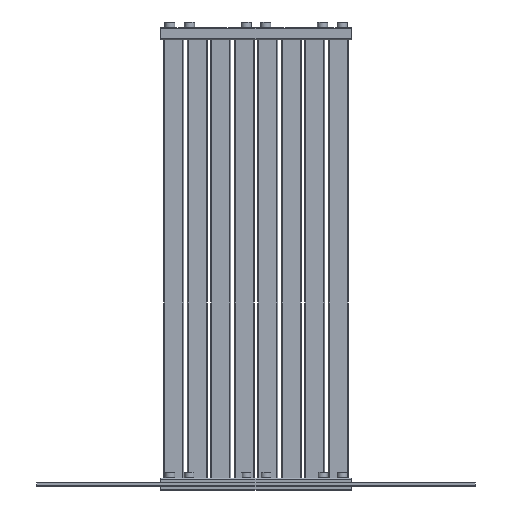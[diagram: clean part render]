
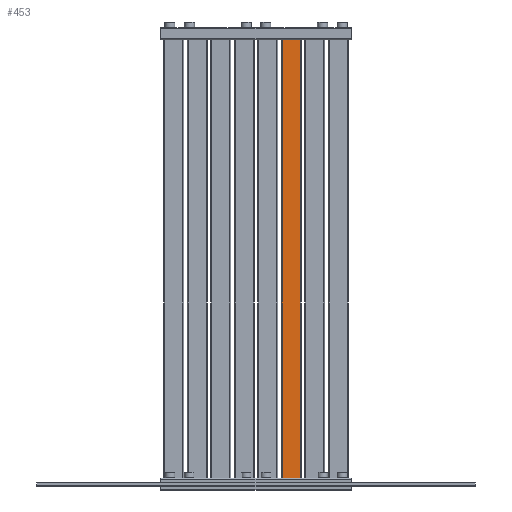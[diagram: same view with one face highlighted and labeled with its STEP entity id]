
A CAD part, left-side view. The second image highlights one B-rep face of the part: STEP entity #453.
In plain terms, the highlighted planar face has unit normal (-1, 0, 0) as drawn and (0, 0, -1) by its records, which use the part's own axes.
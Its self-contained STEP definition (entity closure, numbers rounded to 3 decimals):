
#453 = ADVANCED_FACE( '', ( #822 ), #823, .T. );
#822 = FACE_OUTER_BOUND( '', #1244, .T. );
#823 = PLANE( '', #1245 );
#1244 = EDGE_LOOP( '', ( #2931, #2932, #2933, #2934 ) );
#1245 = AXIS2_PLACEMENT_3D( '', #2935, #2936, #2937 );
#2931 = ORIENTED_EDGE( '', *, *, #4153, .F. );
#2932 = ORIENTED_EDGE( '', *, *, #4149, .T. );
#2933 = ORIENTED_EDGE( '', *, *, #4165, .T. );
#2934 = ORIENTED_EDGE( '', *, *, #4167, .T. );
#2935 = CARTESIAN_POINT( '', ( 25., -560., -5. ) );
#2936 = DIRECTION( '', ( 0., 0., -1. ) );
#2937 = DIRECTION( '', ( -1., 0., 0. ) );
#4149 = EDGE_CURVE( '', #4612, #4609, #4613, .F. );
#4153 = EDGE_CURVE( '', #4612, #4619, #4620, .T. );
#4165 = EDGE_CURVE( '', #4609, #4637, #4638, .T. );
#4167 = EDGE_CURVE( '', #4637, #4619, #4640, .T. );
#4609 = VERTEX_POINT( '', #5211 );
#4612 = VERTEX_POINT( '', #5214 );
#4613 = LINE( '', #5215, #5216 );
#4619 = VERTEX_POINT( '', #5224 );
#4620 = LINE( '', #5225, #5226 );
#4637 = VERTEX_POINT( '', #5249 );
#4638 = LINE( '', #5250, #5251 );
#4640 = LINE( '', #5253, #5254 );
#5211 = CARTESIAN_POINT( '', ( 23., -560., -5. ) );
#5214 = CARTESIAN_POINT( '', ( 23., 560., -5. ) );
#5215 = CARTESIAN_POINT( '', ( 23., -560., -5. ) );
#5216 = VECTOR( '', #9154, 1000. );
#5224 = CARTESIAN_POINT( '', ( -23., 560., -5. ) );
#5225 = CARTESIAN_POINT( '', ( 25., 560., -5. ) );
#5226 = VECTOR( '', #9160, 1000. );
#5249 = CARTESIAN_POINT( '', ( -23., -560., -5. ) );
#5250 = CARTESIAN_POINT( '', ( 25., -560., -5. ) );
#5251 = VECTOR( '', #9182, 1000. );
#5253 = CARTESIAN_POINT( '', ( -23., -560., -5. ) );
#5254 = VECTOR( '', #9186, 1000. );
#9154 = DIRECTION( '', ( 0., 1., 0. ) );
#9160 = DIRECTION( '', ( -1., 0., 0. ) );
#9182 = DIRECTION( '', ( -1., 0., 0. ) );
#9186 = DIRECTION( '', ( 0., 1., 0. ) );
